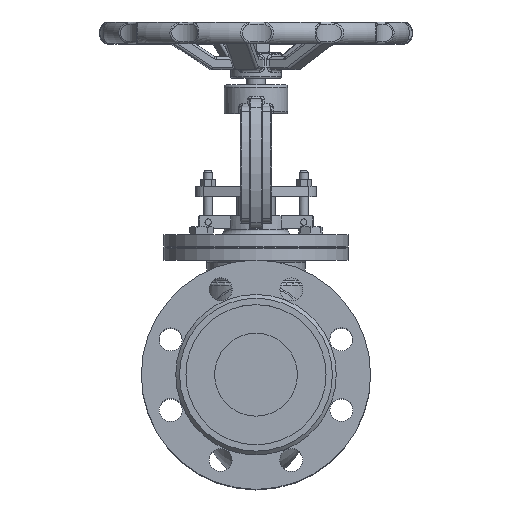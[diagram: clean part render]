
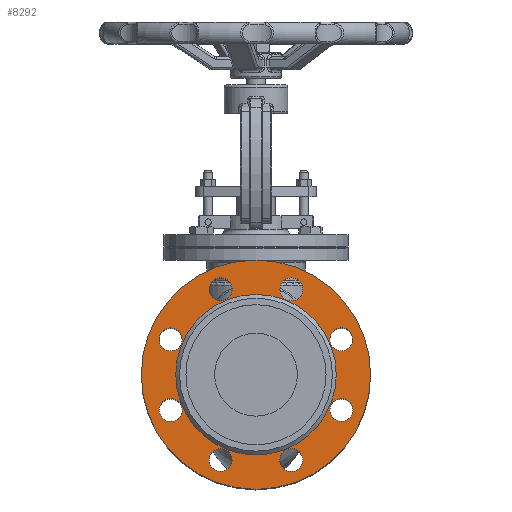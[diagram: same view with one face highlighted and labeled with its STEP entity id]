
A CAD part, top view. The second image highlights one B-rep face of the part: STEP entity #8292.
In plain terms, the highlighted planar face has unit normal (0, 0, 1).
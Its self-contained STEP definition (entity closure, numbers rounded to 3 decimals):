
#8292=ADVANCED_FACE('',(#17730,#17732,#17734,#17736,#17738,#17740,#17742,#17744,
#17746,#17748),#17750,.F.);
#17730=FACE_BOUND('',#17731,.T.);
#17731=EDGE_LOOP('',(#24695));
#17732=FACE_BOUND('',#17733,.T.);
#17733=EDGE_LOOP('',(#24696));
#17734=FACE_BOUND('',#17735,.T.);
#17735=EDGE_LOOP('',(#24697));
#17736=FACE_BOUND('',#17737,.T.);
#17737=EDGE_LOOP('',(#24698));
#17738=FACE_BOUND('',#17739,.T.);
#17739=EDGE_LOOP('',(#24699));
#17740=FACE_BOUND('',#17741,.T.);
#17741=EDGE_LOOP('',(#24700));
#17742=FACE_BOUND('',#17743,.T.);
#17743=EDGE_LOOP('',(#24701));
#17744=FACE_BOUND('',#17745,.T.);
#17745=EDGE_LOOP('',(#24702));
#17746=FACE_BOUND('',#17747,.T.);
#17747=EDGE_LOOP('',(#24703));
#17748=FACE_BOUND('',#17749,.T.);
#17749=EDGE_LOOP('',(#24704));
#17750=PLANE('',#17751);
#17751=AXIS2_PLACEMENT_3D('',#17752,#17753,#17754);
#17752=CARTESIAN_POINT('',(0.,0.,142.));
#17753=DIRECTION('',(0.,0.,-1.));
#17754=DIRECTION('',(0.,1.,0.));
#24695=ORIENTED_EDGE('',*,*,#27278,.T.);
#24696=ORIENTED_EDGE('',*,*,#27279,.T.);
#24697=ORIENTED_EDGE('',*,*,#27280,.T.);
#24698=ORIENTED_EDGE('',*,*,#27281,.T.);
#24699=ORIENTED_EDGE('',*,*,#27282,.T.);
#24700=ORIENTED_EDGE('',*,*,#27478,.F.);
#24701=ORIENTED_EDGE('',*,*,#27283,.T.);
#24702=ORIENTED_EDGE('',*,*,#27284,.T.);
#24703=ORIENTED_EDGE('',*,*,#27285,.T.);
#24704=ORIENTED_EDGE('',*,*,#27286,.T.);
#27278=EDGE_CURVE('',#31028,#31028,#31029,.T.);
#27279=EDGE_CURVE('',#31030,#31030,#31031,.T.);
#27280=EDGE_CURVE('',#31032,#31032,#31033,.T.);
#27281=EDGE_CURVE('',#31034,#31034,#31035,.T.);
#27282=EDGE_CURVE('',#31036,#31036,#31037,.T.);
#27283=EDGE_CURVE('',#31038,#31038,#31039,.T.);
#27284=EDGE_CURVE('',#31040,#31040,#31041,.T.);
#27285=EDGE_CURVE('',#31042,#31042,#31043,.T.);
#27286=EDGE_CURVE('',#31044,#31044,#31045,.T.);
#27478=EDGE_CURVE('',#31353,#31353,#31354,.T.);
#31028=VERTEX_POINT('',#59830);
#31029=CIRCLE('',#59831,90.);
#31030=VERTEX_POINT('',#59835);
#31031=CIRCLE('',#59836,9.);
#31032=VERTEX_POINT('',#59840);
#31033=CIRCLE('',#59841,9.);
#31034=VERTEX_POINT('',#59845);
#31035=CIRCLE('',#59846,9.);
#31036=VERTEX_POINT('',#59850);
#31037=CIRCLE('',#59851,9.);
#31038=VERTEX_POINT('',#59855);
#31039=CIRCLE('',#59856,9.);
#31040=VERTEX_POINT('',#59860);
#31041=CIRCLE('',#59861,9.);
#31042=VERTEX_POINT('',#59865);
#31043=CIRCLE('',#59866,9.);
#31044=VERTEX_POINT('',#59870);
#31045=CIRCLE('',#59871,9.);
#31353=VERTEX_POINT('',#60851);
#31354=CIRCLE('',#60852,63.);
#59830=CARTESIAN_POINT('',(0.,90.,142.));
#59831=AXIS2_PLACEMENT_3D('',#59832,#59833,#59834);
#59832=CARTESIAN_POINT('',(0.,0.,142.));
#59833=DIRECTION('',(0.,0.,1.));
#59834=DIRECTION('',(0.,1.,0.));
#59835=CARTESIAN_POINT('',(60.617,34.109,142.));
#59836=AXIS2_PLACEMENT_3D('',#59837,#59838,#59839);
#59837=CARTESIAN_POINT('',(66.981,27.745,142.));
#59838=DIRECTION('',(0.,0.,-1.));
#59839=DIRECTION('',(-0.707,0.707,0.));
#59840=CARTESIAN_POINT('',(34.109,-60.617,142.));
#59841=AXIS2_PLACEMENT_3D('',#59842,#59843,#59844);
#59842=CARTESIAN_POINT('',(27.745,-66.981,142.));
#59843=DIRECTION('',(0.,0.,-1.));
#59844=DIRECTION('',(0.707,0.707,0.));
#59845=CARTESIAN_POINT('',(-60.617,-34.109,142.));
#59846=AXIS2_PLACEMENT_3D('',#59847,#59848,#59849);
#59847=CARTESIAN_POINT('',(-66.981,-27.745,142.));
#59848=DIRECTION('',(0.,0.,-1.));
#59849=DIRECTION('',(0.707,-0.707,0.));
#59850=CARTESIAN_POINT('',(-34.109,60.617,142.));
#59851=AXIS2_PLACEMENT_3D('',#59852,#59853,#59854);
#59852=CARTESIAN_POINT('',(-27.745,66.981,142.));
#59853=DIRECTION('',(0.,0.,-1.));
#59854=DIRECTION('',(-0.707,-0.707,0.));
#59855=CARTESIAN_POINT('',(18.745,66.981,142.));
#59856=AXIS2_PLACEMENT_3D('',#59857,#59858,#59859);
#59857=CARTESIAN_POINT('',(27.745,66.981,142.));
#59858=DIRECTION('',(0.,0.,-1.));
#59859=DIRECTION('',(-1.,0.,0.));
#59860=CARTESIAN_POINT('',(-66.981,18.745,142.));
#59861=AXIS2_PLACEMENT_3D('',#59862,#59863,#59864);
#59862=CARTESIAN_POINT('',(-66.981,27.745,142.));
#59863=DIRECTION('',(0.,0.,-1.));
#59864=DIRECTION('',(0.,-1.,0.));
#59865=CARTESIAN_POINT('',(-18.745,-66.981,142.));
#59866=AXIS2_PLACEMENT_3D('',#59867,#59868,#59869);
#59867=CARTESIAN_POINT('',(-27.745,-66.981,142.));
#59868=DIRECTION('',(0.,0.,-1.));
#59869=DIRECTION('',(1.,0.,0.));
#59870=CARTESIAN_POINT('',(66.981,-18.745,142.));
#59871=AXIS2_PLACEMENT_3D('',#59872,#59873,#59874);
#59872=CARTESIAN_POINT('',(66.981,-27.745,142.));
#59873=DIRECTION('',(0.,0.,-1.));
#59874=DIRECTION('',(0.,1.,0.));
#60851=CARTESIAN_POINT('',(0.,63.,142.));
#60852=AXIS2_PLACEMENT_3D('',#60853,#60854,#60855);
#60853=CARTESIAN_POINT('',(0.,0.,142.));
#60854=DIRECTION('',(0.,0.,1.));
#60855=DIRECTION('',(0.,1.,0.));
